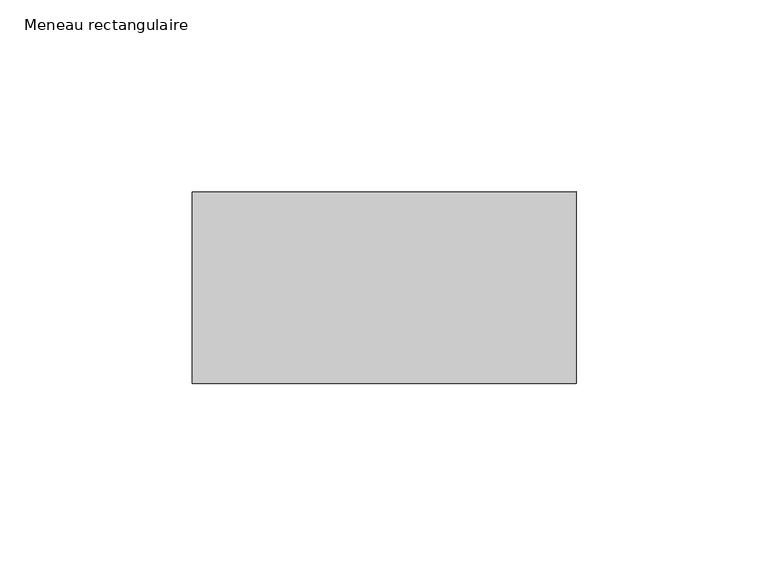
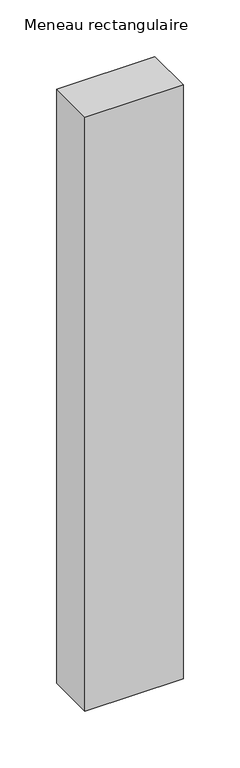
"""IFC4 building model written with IfcOpenShell, lengths in millimetres: member geometry, Meneau rectangulaire : 10x5cm aluminium laqué gris."""

import ifcopenshell
import ifcopenshell.guid

model = None  # the IFC model being written
_history = None  # IfcOwnerHistory: only IFC2X3 demands one
_inside = {}  # id of a spatial element -> (the spatial element, [elements in it])
_under = {}  # id of a project, library or spatial element -> (it, [spatial elements below it])
_declared = {}  # id of a project -> (the project, [libraries it declares])
_typed = {}  # id of a type object -> (the type object, [elements of that type])
_made_of = {}  # id of a material, layer set ... -> (it, [elements and type objects made of it])


def new_model(schema):
    """Start an empty IFC model of exactly this schema.

    Asked for "IFC4X3", IfcOpenShell would pick the latest addendum, in which some entities
    have other attributes; the version numbers below select the first issue.
    IFC2X3 requires an IfcOwnerHistory on every rooted entity: one is made here for all.
    """
    global model, _history
    if schema == "IFC4X3":
        model = ifcopenshell.file(schema_version=(4, 3, 0, 0))
    else:
        model = ifcopenshell.file(schema=schema)
    _inside.clear()
    _under.clear()
    _declared.clear()
    _typed.clear()
    _made_of.clear()
    _history = None
    if model.schema == "IFC2X3":
        org = make("IfcOrganization", Name="unknown")
        user = make(
            "IfcPersonAndOrganization",
            ThePerson=make("IfcPerson", FamilyName="unknown"),
            TheOrganization=org,
        )
        app = make(
            "IfcApplication",
            ApplicationDeveloper=org,
            Version="unknown",
            ApplicationFullName="unknown",
            ApplicationIdentifier="unknown",
        )
        _history = make(
            "IfcOwnerHistory",
            OwningUser=user,
            OwningApplication=app,
            ChangeAction="ADDED",
            CreationDate=0,
        )
    return model


def make(cls, **values):
    """One entity of the class cls with the attributes given. An attribute that is None is left unset."""
    return model.create_entity(
        cls, **{name: value for name, value in values.items() if value is not None}
    )


def rooted(cls, **values):
    """An entity with a GlobalId (a new one), such as an element, a storey or a relation."""
    return make(cls, GlobalId=ifcopenshell.guid.new(), OwnerHistory=_history, **values)


def si_unit(unit_type, name, prefix=None):
    """IfcSIUnit, for example si_unit("LENGTHUNIT", "METRE", prefix="MILLI")."""
    return make("IfcSIUnit", UnitType=unit_type, Prefix=prefix, Name=name)


def assignment(units):
    """IfcUnitAssignment: the units of a project."""
    return None if units is None else make("IfcUnitAssignment", Units=units)


def point(xyz):
    """IfcCartesianPoint."""
    return None if xyz is None else make("IfcCartesianPoint", Coordinates=xyz)


def direction(xyz):
    """IfcDirection."""
    return None if xyz is None else make("IfcDirection", DirectionRatios=xyz)


def frame(location, z_axis=None, x_axis=None):
    """IfcAxis2Placement3D, a coordinate frame: its origin and axes. An axis left out is left unset."""
    return make(
        "IfcAxis2Placement3D",
        Location=point(location),
        Axis=direction(z_axis),
        RefDirection=direction(x_axis),
    )


def origin():
    """The frame at (0, 0, 0) with its axes left unset."""
    return frame((0.0, 0.0, 0.0))


def place(relative_to, where):
    """IfcLocalPlacement: puts the frame where relative to a parent placement (None: the world)."""
    return make(
        "IfcLocalPlacement", PlacementRelTo=relative_to, RelativePlacement=where
    )


def context(
    kind, dimensions, precision=None, world=None, true_north=None, identifier=None
):
    """IfcGeometricRepresentationContext, for example the 3D "Model" context."""
    return make(
        "IfcGeometricRepresentationContext",
        ContextIdentifier=identifier,
        ContextType=kind,
        CoordinateSpaceDimension=dimensions,
        Precision=precision,
        WorldCoordinateSystem=world,
        TrueNorth=true_north,
    )


def project(units=None, contexts=None):
    """IfcProject with its units and contexts."""
    return rooted(
        "IfcProject",
        Name="project",
        RepresentationContexts=contexts,
        UnitsInContext=assignment(units),
    )


def spatial(cls, under=None, at=None, **own):
    """A site, building, storey or space (cls), placed at a placement, below another one or the project."""
    s = rooted(cls, ObjectPlacement=at, **own)
    if under is not None:
        _under.setdefault(under.id(), (under, []))[1].append(s)
    return s


def polyline(points):
    """IfcPolyline through the points."""
    return make("IfcPolyline", Points=[point(p) for p in points])


def outline(outer, holes=None, kind="AREA"):
    """IfcArbitraryClosedProfileDef: a profile drawn as a closed curve; with holes, ...WithVoids."""
    if holes is None:
        return make("IfcArbitraryClosedProfileDef", ProfileType=kind, OuterCurve=outer)
    return make(
        "IfcArbitraryProfileDefWithVoids",
        ProfileType=kind,
        OuterCurve=outer,
        InnerCurves=holes,
    )


def extrude(swept, where, along, depth):
    """IfcExtrudedAreaSolid: the profile swept, set in the frame where, extruded along a direction by depth."""
    return make(
        "IfcExtrudedAreaSolid",
        SweptArea=swept,
        Position=where,
        ExtrudedDirection=direction(along),
        Depth=depth,
    )


def shape(context_of_items, identifier, shape_type, items):
    """IfcShapeRepresentation: the items that make up one representation, for example the "Body"."""
    return make(
        "IfcShapeRepresentation",
        ContextOfItems=context_of_items,
        RepresentationIdentifier=identifier,
        RepresentationType=shape_type,
        Items=items,
    )


def source(mapping_origin, context_of_items, identifier, shape_type, items):
    """IfcRepresentationMap: a shape defined once, which mapped items show again and again."""
    return make(
        "IfcRepresentationMap",
        MappingOrigin=mapping_origin,
        MappedRepresentation=shape(context_of_items, identifier, shape_type, items),
    )


def transform(
    local_origin,
    x_axis=None,
    y_axis=None,
    z_axis=None,
    scale=None,
    scale2=None,
    scale3=None,
    uniform=True,
):
    """IfcCartesianTransformationOperator3D, or its non-uniform kind. x_axis, y_axis, z_axis: its Axis1, 2, 3."""
    if uniform:
        return make(
            "IfcCartesianTransformationOperator3D",
            Axis1=direction(x_axis),
            Axis2=direction(y_axis),
            LocalOrigin=point(local_origin),
            Scale=scale,
            Axis3=direction(z_axis),
        )
    return make(
        "IfcCartesianTransformationOperator3DnonUniform",
        Axis1=direction(x_axis),
        Axis2=direction(y_axis),
        LocalOrigin=point(local_origin),
        Scale=scale,
        Axis3=direction(z_axis),
        Scale2=scale2,
        Scale3=scale3,
    )


def mapped(mapping_source, mapping_target):
    """IfcMappedItem: shows the shape of a source again, moved by a transform."""
    return make(
        "IfcMappedItem", MappingSource=mapping_source, MappingTarget=mapping_target
    )


def made_of(thing, what):
    """Note that an element or type object is made of a material, layer set ...; save() writes the relation."""
    if what is not None:
        _made_of.setdefault(what.id(), (what, []))[1].append(thing)
    return thing


def element(
    cls,
    number,
    at=None,
    inside=None,
    cuts=None,
    type_object=None,
    material=None,
    context=None,
    identifier="Body",
    shape_type=None,
    held_by="IfcProductDefinitionShape",
    body=None,
    shapes=None,
    **own,
):
    """One element of the class cls, such as IfcWall. Its Tag is "e" and its number.

    at: its placement. inside: the storey or other place that contains it. cuts: it is an
    opening in that element (IfcRelVoidsElement). A single representation is given by context,
    identifier, shape_type and body (its items); several are given by shapes. held_by: the class
    of the entity that holds the representations. save() writes the other relations.
    """
    e = rooted(cls, Tag="e%d" % number, ObjectPlacement=at, **own)
    if body is not None:
        shapes = [shape(context, identifier, shape_type, body)]
    if shapes is not None:
        e.Representation = make(held_by, Representations=shapes)
    if inside is not None:
        _inside.setdefault(inside.id(), (inside, []))[1].append(e)
    if cuts is not None:
        rooted(
            "IfcRelVoidsElement", RelatingBuildingElement=cuts, RelatedOpeningElement=e
        )
    if type_object is not None:
        _typed.setdefault(type_object.id(), (type_object, []))[1].append(e)
    return made_of(e, material)


def aggregate(whole, parts):
    """IfcRelAggregates: a whole, such as a stair, and the parts it consists of."""
    return rooted("IfcRelAggregates", RelatingObject=whole, RelatedObjects=parts)


def save(model, path):
    """Write the relations noted so far, then the file.

    IfcRelAggregates (storeys below a building ...), IfcRelContainedInSpatialStructure (elements
    in a storey), IfcRelDefinesByType, IfcRelAssociatesMaterial and IfcRelDeclares: one each for
    every whole, place, type object, material and project.
    """
    for whole, parts in _under.values():
        aggregate(whole, parts)
    for where, things in _inside.values():
        rooted(
            "IfcRelContainedInSpatialStructure",
            RelatedElements=things,
            RelatingStructure=where,
        )
    for kind, things in _typed.values():
        rooted("IfcRelDefinesByType", RelatedObjects=things, RelatingType=kind)
    for what, things in _made_of.values():
        rooted("IfcRelAssociatesMaterial", RelatedObjects=things, RelatingMaterial=what)
    for by, libraries in _declared.values():
        rooted("IfcRelDeclares", RelatingContext=by, RelatedDefinitions=libraries)
    model.write(path)


def meneau_rectangulaire_ef011fc9(model_context):
    return source(origin(), model_context, "Body", "SweptSolid", [
        extrude(outline(polyline([(0.0, 25.0), (0.0, -25.0), (-100.0, -25.0), (-100.0, 25.0), (0.0, 25.0)])), frame((0.0, 0.0, -640.0), z_axis=(0.0, 0.0, 1.0), x_axis=(1.0, 0.0, 0.0)), (0.0, 0.0, 1.0), 640.0),
    ])


if __name__ == "__main__":
    model = new_model("IFC4")
    model_context = context("Model", 3, world=origin())
    ifc_project = project(units=[si_unit("LENGTHUNIT", "METRE", prefix="MILLI")], contexts=[model_context])
    site = spatial("IfcSite", under=ifc_project)
    building = spatial("IfcBuilding", under=site)
    placement = place(None, origin())
    meneau_rectangulaire_shape = meneau_rectangulaire_ef011fc9(model_context)
    element("IfcMember", 1, ObjectType="Meneau rectangulaire : 10x5cm aluminium laqué gris", at=placement, inside=building, context=model_context, shape_type="MappedRepresentation", body=[
        mapped(meneau_rectangulaire_shape, transform((0.0, 0.0, 0.0), x_axis=(1.0, 0.0, 0.0), y_axis=(0.0, 1.0, 0.0), z_axis=(0.0, 0.0, 1.0))),
    ])
    save(model, "model.ifc")
